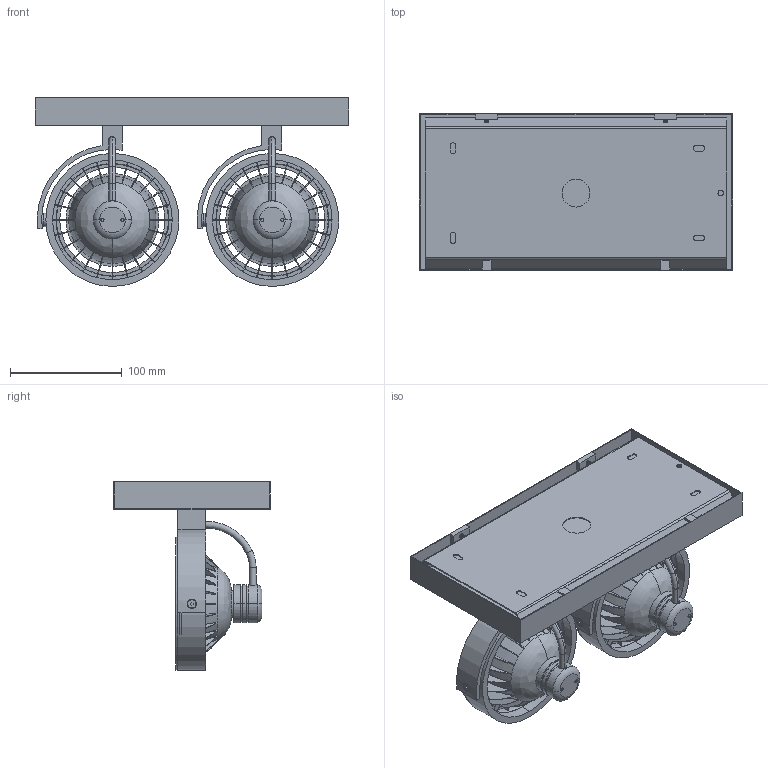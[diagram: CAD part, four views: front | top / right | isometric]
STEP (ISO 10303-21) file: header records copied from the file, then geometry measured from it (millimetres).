
FILE_DESCRIPTION((''),'2;1');
FILE_NAME('1478_ASM','2022-08-11T',('Administrator'),(''),'PRO/ENGINEER BY PARAMETRIC TECHNOLOGY CORPORATION, 2014310','PRO/ENGINEER BY PARAMETRIC TECHNOLOGY CORPORATION, 2014310','');
FILE_SCHEMA(('CONFIG_CONTROL_DESIGN'));
Products named in the file (19): 1478XIDINGHE; 1478GUABAN; ASM0002_ASM; DENGHUAN2; AR1111; ___; TONGJIAN1; GU10DENGTOU; __; DIANXIAN; M10-15_1; GAIHOU2GE_ASM; DIANPIAN-20X10XT1; 1130-07; M10X1NUT_1; M4X8; 1478_ASM
Assembly tree (24 placements, depth 3):
  1478_ASM
    ASM0002_ASM
      1478XIDINGHE
      1478GUABAN
    GAIHOU2GE_ASM  x2
      DENGHUAN2
      AR1111
      ___
      ___
      TONGJIAN1
      GU10DENGTOU
      ___
      __
      DIANXIAN
      M10-15_1
    DIANPIAN-20X10XT1  x2
    1130-07  x2
    M10X1NUT_1  x2
    M4X8  x2
Bounding box: 280 x 140 x 168.89 mm (x, y, z)
Volume: 630852.4 mm3; surface area: 410352.5 mm2
Topology: 32 solids, 32 shells, 1985 faces, 5832 edges, 3731 vertices
Faces by surface type: cylinder 720, plane 639, bspline 454, torus 124, cone 48
Entity records: 58527 total; most frequent: CARTESIAN_POINT 32236, ORIENTED_EDGE 6102, DIRECTION 4533, EDGE_CURVE 3051, VERTEX_POINT 1982, AXIS2_PLACEMENT_3D 1703, EDGE_LOOP 1165, VECTOR 1127
